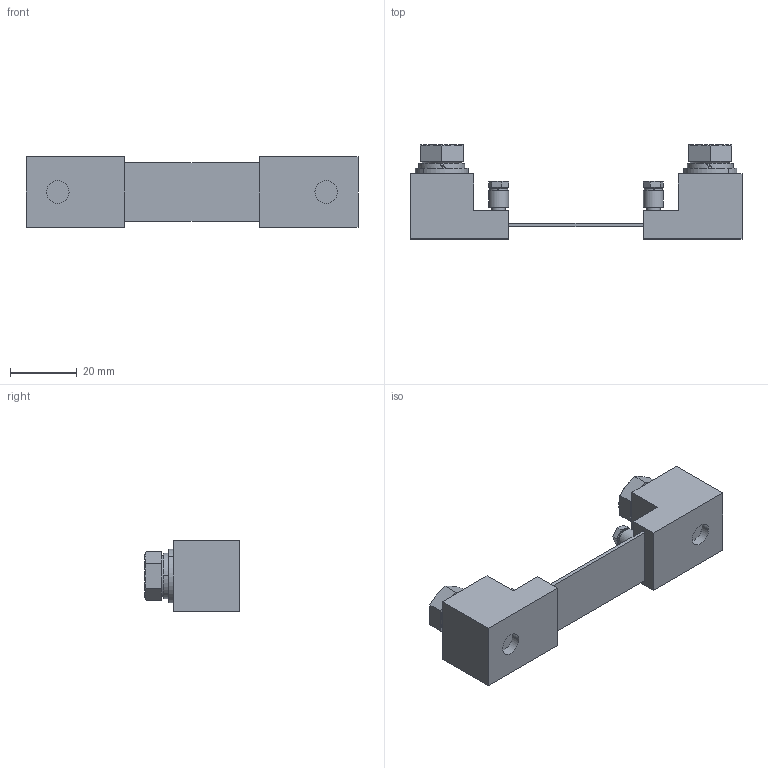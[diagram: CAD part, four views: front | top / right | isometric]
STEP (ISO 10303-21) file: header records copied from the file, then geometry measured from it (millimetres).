
FILE_DESCRIPTION (( 'STEP AP203' ), '1' );
FILE_NAME ('RTCS0050B050Z00.STEP', '2023-12-13T06:56:57', ( '' ), ( '' ), 'SwSTEP 2.0', 'SolidWorks 2022', '' );
FILE_SCHEMA (( 'CONFIG_CONTROL_DESIGN' ));
Length unit declared in the file: millimetre
Products named in the file (8): RTCS0050B050Z00; 基座; 电阻体; hexagon head bolts-full thread gb_GB_FASTENER_BOLT_STBAB A M3X6-S; hexagon head bolts-full thread gb_GB_FASTENER_BOLT_STBAB A M8X20-S; single coil lock washers light type gb_GB_FASTENER_WASHER_SSWL 3; single coil lock washers light type gb_GB_FASTENER_WASHER_SSWL 8; plain washers--product grade c gb_GB_FASTENER_WASHER_SMWC 8
Assembly tree (13 placements, depth 2):
  RTCS0050B050Z00
    电阻体
    基座  x2
    single coil lock washers light type gb_GB_FASTENER_WASHER_SSWL 8  x2
    hexagon head bolts-full thread gb_GB_FASTENER_BOLT_STBAB A M8X20-S  x2
    plain washers--product grade c gb_GB_FASTENER_WASHER_SMWC 8  x2
    hexagon head bolts-full thread gb_GB_FASTENER_BOLT_STBAB A M3X6-S  x2
    single coil lock washers light type gb_GB_FASTENER_WASHER_SSWL 3  x2
Bounding box: 99.3 x 28.15 x 21 mm (x, y, z)
Volume: 23077.7 mm3; surface area: 13486.3 mm2
Topology: 13 solids, 13 shells, 720 faces, 1512 edges, 826 vertices
Faces by surface type: cone 388, cylinder 220, plane 112
Entity records: 10564 total; most frequent: DIRECTION 1814, CARTESIAN_POINT 1728, ORIENTED_EDGE 1520, EDGE_CURVE 760, AXIS2_PLACEMENT_3D 723, VERTEX_POINT 417, EDGE_LOOP 373, LINE 368
